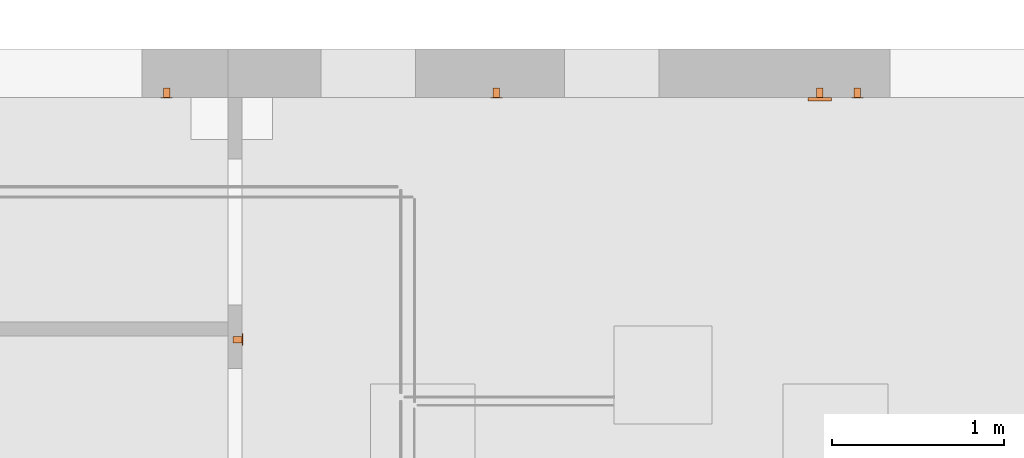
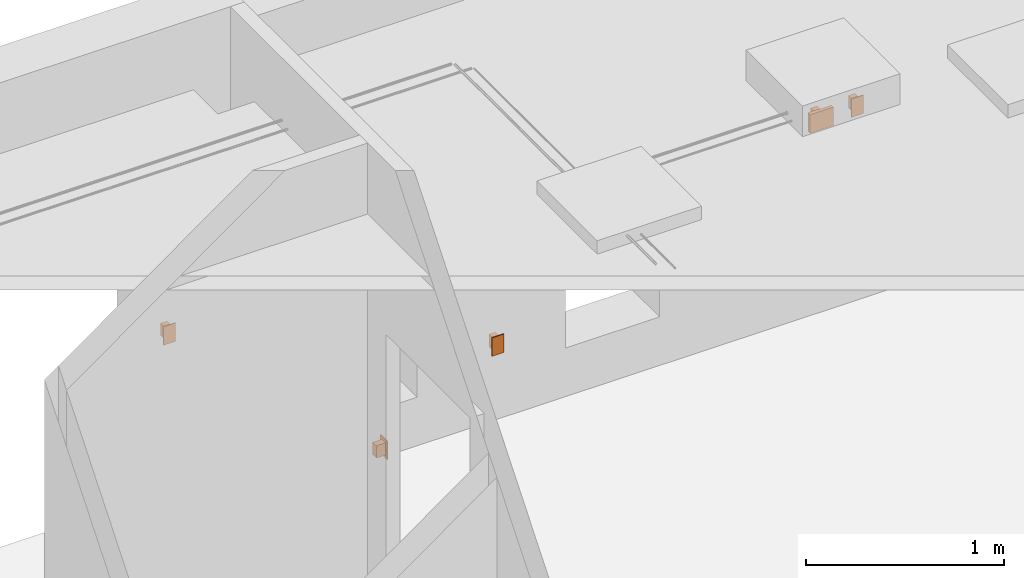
# One storey, part 24 of 24: 5 proxies.
"""IFC2X3 building model written with IfcOpenShell, lengths in millimetres."""

from ifc_helpers import new_model, entity, si_unit, converted_unit, derived_unit, direction, frame, frame_2d, origin, origin_2d_with_axis, place, context, subcontext, project, spatial, rectangle, extrude, source, transform, mapped, material, material_list, type_object, type_shapes, element, save


model = new_model("IFC2X3")

# Units and contexts
model_context = context("Model", 3, precision=0.01, world=origin(), true_north=direction((6.123031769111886e-17, 1.0)))
body_context = subcontext(model_context, "Body", "Model", "MODEL_VIEW")
ifc_project = project(units=[si_unit("LENGTHUNIT", "METRE", prefix="MILLI"), si_unit("AREAUNIT", "SQUARE_METRE"), si_unit("VOLUMEUNIT", "CUBIC_METRE"), converted_unit("PLANEANGLEUNIT", "DEGREE", entity("IfcRatioMeasure", 0.017453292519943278), si_unit("PLANEANGLEUNIT", "RADIAN"), dimensions=[0, 0, 0, 0, 0, 0, 0]), si_unit("MASSUNIT", "GRAM", prefix="KILO"), derived_unit("MASSDENSITYUNIT", [(si_unit("MASSUNIT", "GRAM", prefix="KILO"), 1), (si_unit("LENGTHUNIT", "METRE"), -3)]), derived_unit("MOMENTOFINERTIAUNIT", [(si_unit("LENGTHUNIT", "METRE"), 4)]), si_unit("TIMEUNIT", "SECOND"), si_unit("FREQUENCYUNIT", "HERTZ"), si_unit("THERMODYNAMICTEMPERATUREUNIT", "DEGREE_CELSIUS"), derived_unit("THERMALTRANSMITTANCEUNIT", [(si_unit("MASSUNIT", "GRAM", prefix="KILO"), 1), (si_unit("THERMODYNAMICTEMPERATUREUNIT", "KELVIN"), -1), (si_unit("TIMEUNIT", "SECOND"), -3)]), derived_unit("VOLUMETRICFLOWRATEUNIT", [(si_unit("LENGTHUNIT", "METRE"), 3), (si_unit("TIMEUNIT", "SECOND"), -1)]), derived_unit("MASSFLOWRATEUNIT", [(si_unit("MASSUNIT", "GRAM", prefix="KILO"), 1), (si_unit("TIMEUNIT", "SECOND"), -1)]), derived_unit("ROTATIONALFREQUENCYUNIT", [(si_unit("TIMEUNIT", "SECOND"), -1)]), si_unit("ELECTRICCURRENTUNIT", "AMPERE"), si_unit("ELECTRICVOLTAGEUNIT", "VOLT"), si_unit("POWERUNIT", "WATT"), si_unit("FORCEUNIT", "NEWTON", prefix="KILO"), si_unit("ILLUMINANCEUNIT", "LUX"), si_unit("LUMINOUSFLUXUNIT", "LUMEN"), si_unit("LUMINOUSINTENSITYUNIT", "CANDELA"), derived_unit("USERDEFINED", [(si_unit("MASSUNIT", "GRAM", prefix="KILO"), -1), (si_unit("LENGTHUNIT", "METRE"), -2), (si_unit("TIMEUNIT", "SECOND"), 3), (si_unit("LUMINOUSFLUXUNIT", "LUMEN"), 1)]), derived_unit("SOUNDPOWERUNIT", [(si_unit("MASSUNIT", "GRAM", prefix="KILO"), 1), (si_unit("LENGTHUNIT", "METRE"), 2), (si_unit("TIMEUNIT", "SECOND"), -3)]), derived_unit("SOUNDPRESSUREUNIT", [(si_unit("MASSUNIT", "GRAM", prefix="KILO"), 1), (si_unit("LENGTHUNIT", "METRE"), -1), (si_unit("TIMEUNIT", "SECOND"), -2)]), derived_unit("LINEARVELOCITYUNIT", [(si_unit("LENGTHUNIT", "METRE"), 1), (si_unit("TIMEUNIT", "SECOND"), -1)]), si_unit("PRESSUREUNIT", "PASCAL"), derived_unit("USERDEFINED", [(si_unit("LENGTHUNIT", "METRE"), -2), (si_unit("MASSUNIT", "GRAM", prefix="KILO"), 1), (si_unit("TIMEUNIT", "SECOND"), -2)]), derived_unit("LINEARFORCEUNIT", [(si_unit("MASSUNIT", "GRAM", prefix="KILO"), 1), (si_unit("LENGTHUNIT", "METRE"), 1), (si_unit("TIMEUNIT", "SECOND"), -2), (si_unit("LENGTHUNIT", "METRE"), -1)]), derived_unit("PLANARFORCEUNIT", [(si_unit("MASSUNIT", "GRAM", prefix="KILO"), 1), (si_unit("LENGTHUNIT", "METRE"), 1), (si_unit("TIMEUNIT", "SECOND"), -2), (si_unit("LENGTHUNIT", "METRE"), -2)])], contexts=[model_context])

# Site, building, storey
site_placement = place(None, origin())
site = spatial("IfcSite", under=ifc_project, at=site_placement, Name="Default", CompositionType="ELEMENT")
building_placement = place(site_placement, origin())
building = spatial("IfcBuilding", under=site, at=building_placement, CompositionType="ELEMENT")
storey_placement = place(building_placement, origin())
storey = spatial("IfcBuildingStorey", under=building, at=storey_placement, Name="Level 1", CompositionType="ELEMENT", Elevation=0.0)

# Proxies
ifc_material = material(Name="<Unnamed>")
ifc_material_list_1 = material_list([ifc_material, ifc_material])
ifc_material_list_2 = material_list([ifc_material, ifc_material])
building_element_proxy_type_1 = type_object("IfcBuildingElementProxyType", Name="M_Lighting Switches:Three Way:Three Way : M_Lighting Switches:Three Way", PredefinedType="NOTDEFINED", material=ifc_material_list_2)
shared_shape_1 = source(origin(), body_context, "Body", "SweptSolid", [
    extrude(rectangle(XDim=38.1, YDim=53.97500000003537, at=origin_2d_with_axis()), frame((5248.51980151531, 5038.14901326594, 1161.8999999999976), z_axis=(0.0, 0.0, 1.0), x_axis=(-1.0, 0.0, 0.0)), (0.0, 0.0, 1.0), 76.20000000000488),
    extrude(rectangle(XDim=69.84999999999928, YDim=4.762499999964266, at=frame_2d((0.0, 5.415667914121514e-13), x_axis=(1.0, 0.0))), frame((5248.51980151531, 5008.780263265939, 1142.8499999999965), z_axis=(0.0, 0.0, 1.0), x_axis=(-1.0, 0.0, 0.0)), (0.0, 0.0, 1.0), 114.30000000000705),
])
type_shapes(building_element_proxy_type_1, [shared_shape_1])
proxy_1_placement = place(storey_placement, origin())
element("IfcBuildingElementProxy", 1, at=proxy_1_placement, inside=storey, type_object=building_element_proxy_type_1, material=ifc_material_list_1, Name="M_Lighting Switches:Three Way:Three Way : M_Lighting Switches:Three Way:Three Way:Three Way : M_Lighting Switches:Three Way : M_Lighting Switches:Three Way:Three Way : M_Lighting Switches:Three Way", ObjectType="M_Lighting Switches:Three Way:Three Way : M_Lighting Switches:Three Way:Three Way:Three Way : M_Lighting Switches:Three Way : M_Lighting Switches:Three Way:Three Way : M_Lighting Switches:Three Way", context=body_context, shape_type="MappedRepresentation", body=[
    mapped(shared_shape_1, transform((0.0, 0.0, 0.0), scale=1.0)),
])
ifc_material_list_3 = material_list([ifc_material, ifc_material])
ifc_material_list_4 = material_list([ifc_material, ifc_material])
building_element_proxy_type_2 = type_object("IfcBuildingElementProxyType", Name="M_Receptacle - 220V:Standard:Standard : M_Receptacle - 220V:Standard", PredefinedType="NOTDEFINED", material=ifc_material_list_4)
shared_shape_2 = source(origin(), body_context, "Body", "SweptSolid", [
    extrude(rectangle(XDim=38.1, YDim=53.97500000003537, at=origin_2d_with_axis()), frame((7167.717793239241, 5038.14901326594, 421.89999999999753), z_axis=(0.0, 0.0, 1.0), x_axis=(-1.0, 0.0, 0.0)), (0.0, 0.0, 1.0), 76.20000000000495),
    extrude(rectangle(XDim=69.8499999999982, YDim=4.762499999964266, at=frame_2d((-5.435651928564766e-13, 5.415667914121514e-13), x_axis=(1.0, 0.0))), frame((7167.71779323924, 5008.780263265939, 402.84999999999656), z_axis=(0.0, 0.0, 1.0), x_axis=(-1.0, 0.0, 0.0)), (0.0, 0.0, 1.0), 114.30000000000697),
])
type_shapes(building_element_proxy_type_2, [shared_shape_2])
proxy_2_placement = place(storey_placement, origin())
element("IfcBuildingElementProxy", 2, at=proxy_2_placement, inside=storey, type_object=building_element_proxy_type_2, material=ifc_material_list_3, Name="M_Receptacle - 220V:Standard:Standard : M_Receptacle - 220V:Standard:Standard:Standard : M_Receptacle - 220V:Standard : M_Receptacle - 220V:Standard:Standard : M_Receptacle - 220V:Standard", ObjectType="M_Receptacle - 220V:Standard:Standard : M_Receptacle - 220V:Standard:Standard:Standard : M_Receptacle - 220V:Standard : M_Receptacle - 220V:Standard:Standard : M_Receptacle - 220V:Standard", context=body_context, shape_type="MappedRepresentation", body=[
    mapped(shared_shape_2, transform((0.0, 0.0, 0.0), scale=1.0)),
])
ifc_material_list_5 = material_list([ifc_material, ifc_material])
ifc_material_list_6 = material_list([ifc_material, ifc_material])
building_element_proxy_type_3 = type_object("IfcBuildingElementProxyType", Name="M_Lighting Switches:Three Way:Three Way : M_Lighting Switches:Three Way", PredefinedType="NOTDEFINED", material=ifc_material_list_6)
shared_shape_3 = source(origin(), body_context, "Body", "SweptSolid", [
    extrude(rectangle(XDim=38.099999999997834, YDim=53.97500000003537, at=origin_2d_with_axis()), frame((9267.71779323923, 5038.14901326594, 1161.8999999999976), z_axis=(0.0, 0.0, 1.0), x_axis=(-1.0, 0.0, 0.0)), (0.0, 0.0, 1.0), 76.20000000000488),
    extrude(rectangle(XDim=69.84999999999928, YDim=4.762499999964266, at=frame_2d((0.0, 5.415667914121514e-13), x_axis=(1.0, 0.0))), frame((9267.71779323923, 5008.780263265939, 1142.8499999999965), z_axis=(0.0, 0.0, 1.0), x_axis=(-1.0, 0.0, 0.0)), (0.0, 0.0, 1.0), 114.30000000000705),
])
type_shapes(building_element_proxy_type_3, [shared_shape_3])
proxy_3_placement = place(storey_placement, origin())
element("IfcBuildingElementProxy", 3, at=proxy_3_placement, inside=storey, type_object=building_element_proxy_type_3, material=ifc_material_list_5, Name="M_Lighting Switches:Three Way:Three Way : M_Lighting Switches:Three Way:Three Way:Three Way : M_Lighting Switches:Three Way : M_Lighting Switches:Three Way:Three Way : M_Lighting Switches:Three Way", ObjectType="M_Lighting Switches:Three Way:Three Way : M_Lighting Switches:Three Way:Three Way:Three Way : M_Lighting Switches:Three Way : M_Lighting Switches:Three Way:Three Way : M_Lighting Switches:Three Way", context=body_context, shape_type="MappedRepresentation", body=[
    mapped(shared_shape_3, transform((0.0, 0.0, 0.0), scale=1.0)),
])
ifc_material_list_7 = material_list([ifc_material, ifc_material])
ifc_material_list_8 = material_list([ifc_material, ifc_material])
building_element_proxy_type_4 = type_object("IfcBuildingElementProxyType", Name="M_Lighting Switches:Three Way:Three Way : M_Lighting Switches:Three Way", PredefinedType="NOTDEFINED", material=ifc_material_list_8)
shared_shape_4 = source(origin(), body_context, "Body", "SweptSolid", [
    extrude(rectangle(XDim=38.09999999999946, YDim=53.97500000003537, at=frame_2d((-2.7000623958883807e-13, 0.0), x_axis=(1.0, 0.0))), frame((5660.73029323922, 3601.1396203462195, 1161.8999999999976), z_axis=(0.0, 0.0, 1.0), x_axis=(0.0, -1.0, 0.0)), (0.0, 0.0, 1.0), 76.20000000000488),
    extrude(rectangle(XDim=69.84999999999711, YDim=4.762499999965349, at=origin_2d_with_axis()), frame((5690.099043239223, 3601.1396203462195, 1142.8499999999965), z_axis=(0.0, 0.0, 1.0), x_axis=(0.0, -1.0, 0.0)), (0.0, 0.0, 1.0), 114.30000000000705),
])
type_shapes(building_element_proxy_type_4, [shared_shape_4])
proxy_4_placement = place(storey_placement, origin())
element("IfcBuildingElementProxy", 4, at=proxy_4_placement, inside=storey, type_object=building_element_proxy_type_4, material=ifc_material_list_7, Name="M_Lighting Switches:Three Way:Three Way : M_Lighting Switches:Three Way:Three Way:Three Way : M_Lighting Switches:Three Way : M_Lighting Switches:Three Way:Three Way : M_Lighting Switches:Three Way", ObjectType="M_Lighting Switches:Three Way:Three Way : M_Lighting Switches:Three Way:Three Way:Three Way : M_Lighting Switches:Three Way : M_Lighting Switches:Three Way:Three Way : M_Lighting Switches:Three Way", context=body_context, shape_type="MappedRepresentation", body=[
    mapped(shared_shape_4, transform((0.0, 0.0, 0.0), scale=1.0)),
])
ifc_material_list_9 = material_list([ifc_material, ifc_material])
ifc_material_list_10 = material_list([ifc_material, ifc_material])
building_element_proxy_type_5 = type_object("IfcBuildingElementProxyType", Name="Thermostat Kripis v3:Standard:Standard : Thermostat Kripis v3:Standard", PredefinedType="NOTDEFINED", material=ifc_material_list_10)
shared_shape_5 = source(origin(), body_context, "Body", "SweptSolid", [
    extrude(rectangle(XDim=38.099999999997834, YDim=53.97500000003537, at=origin_2d_with_axis()), frame((9047.33983221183, 5038.14901326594, 1161.8999999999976), z_axis=(0.0, 0.0, 1.0), x_axis=(-1.0, 0.0, 0.0)), (0.0, 0.0, 1.0), 76.20000000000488),
    extrude(rectangle(XDim=136.02499999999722, YDim=20.73336860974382, at=origin_2d_with_axis()), frame((9049.402332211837, 5000.794828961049, 1142.8499999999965), z_axis=(0.0, 0.0, 1.0), x_axis=(-1.0, 0.0, 0.0)), (0.0, 0.0, 1.0), 114.30000000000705),
])
type_shapes(building_element_proxy_type_5, [shared_shape_5])
proxy_5_placement = place(storey_placement, origin())
element("IfcBuildingElementProxy", 5, at=proxy_5_placement, inside=storey, type_object=building_element_proxy_type_5, material=ifc_material_list_9, Name="Thermostat Kripis v3:Standard:Standard : Thermostat Kripis v3:Standard:Standard:Standard : Thermostat Kripis v3:Standard : Thermostat Kripis v3:Standard:Standard : Thermostat Kripis v3:Standard", ObjectType="Thermostat Kripis v3:Standard:Standard : Thermostat Kripis v3:Standard:Standard:Standard : Thermostat Kripis v3:Standard : Thermostat Kripis v3:Standard:Standard : Thermostat Kripis v3:Standard", context=body_context, shape_type="MappedRepresentation", body=[
    mapped(shared_shape_5, transform((0.0, 0.0, 0.0), scale=1.0)),
])

save(model, "model.ifc")
